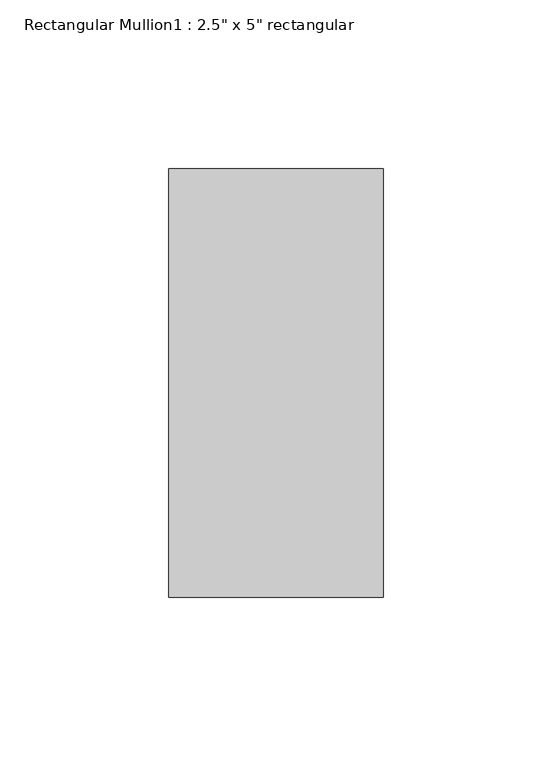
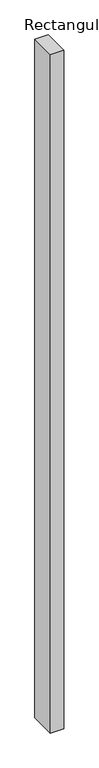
"""IFC4 building model written with IfcOpenShell, lengths in millimetres: member geometry."""

from ifc_helpers import new_model, si_unit, frame, origin, place, context, project, spatial, polyline, outline, extrude, source, transform, mapped, element, save


def member_9434a11c(model_context):
    return source(origin(), model_context, "Body", "SweptSolid", [
        extrude(outline(polyline([(0.0, 63.5), (0.0, -63.5), (-63.5, -63.5), (-63.5, 63.5), (0.0, 63.5)])), frame((0.0, 0.0, -3382.4333333), z_axis=(0.0, 0.0, 1.0), x_axis=(1.0, 0.0, 0.0)), (0.0, 0.0, 1.0), 3382.4333333),
    ])


if __name__ == "__main__":
    model = new_model("IFC4")
    model_context = context("Model", 3, world=origin())
    ifc_project = project(units=[si_unit("LENGTHUNIT", "METRE", prefix="MILLI")], contexts=[model_context])
    site = spatial("IfcSite", under=ifc_project)
    building = spatial("IfcBuilding", under=site)
    placement = place(None, origin())
    member_shape = member_9434a11c(model_context)
    element("IfcMember", 1, ObjectType="Rectangular Mullion1 : 2.5\" x 5\" rectangular", at=placement, inside=building, context=model_context, shape_type="MappedRepresentation", body=[
        mapped(member_shape, transform((0.0, 0.0, 0.0), x_axis=(1.0, 0.0, 0.0), y_axis=(0.0, 1.0, 0.0), z_axis=(0.0, 0.0, 1.0))),
    ])
    save(model, "model.ifc")
